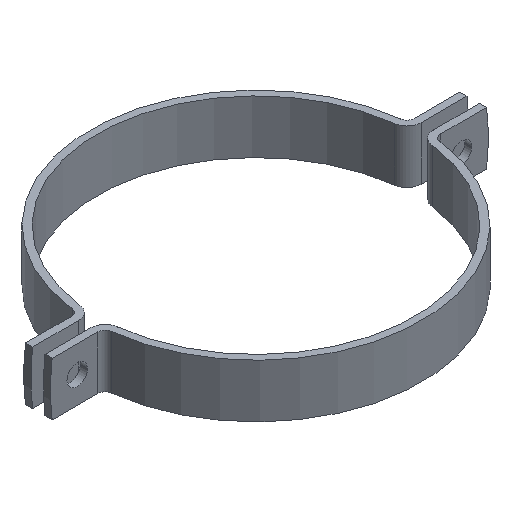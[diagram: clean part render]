
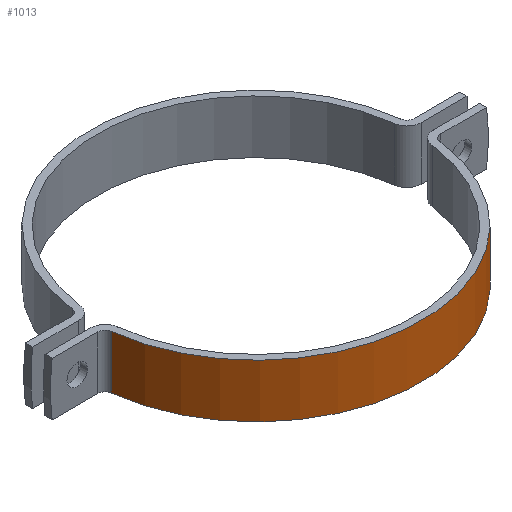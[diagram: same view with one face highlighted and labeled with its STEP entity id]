
A CAD part, isometric view. The second image highlights one B-rep face of the part: STEP entity #1013.
In plain terms, the highlighted cylindrical face has radius 186 mm (diameter 372 mm), a partial arc.
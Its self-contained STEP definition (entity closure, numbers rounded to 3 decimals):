
#28 = ORIENTED_EDGE ( 'NONE', *, *, #1198, .T. ) ;
#38 = CARTESIAN_POINT ( 'NONE',  ( -184.688, -22.052, 0. ) ) ;
#102 = CARTESIAN_POINT ( 'NONE',  ( -184.688, -22.052, -60. ) ) ;
#114 = DIRECTION ( 'NONE',  ( 0., 0., 1. ) ) ;
#145 = VECTOR ( 'NONE', #576, 1000. ) ;
#184 = CARTESIAN_POINT ( 'NONE',  ( 184.688, -22.052, -60. ) ) ;
#202 = CARTESIAN_POINT ( 'NONE',  ( -184.688, -22.052, -60. ) ) ;
#296 = ORIENTED_EDGE ( 'NONE', *, *, #754, .F. ) ;
#403 = LINE ( 'NONE', #102, #1176 ) ;
#411 = ORIENTED_EDGE ( 'NONE', *, *, #1085, .T. ) ;
#456 = AXIS2_PLACEMENT_3D ( 'NONE', #602, #718, #822 ) ;
#465 = CYLINDRICAL_SURFACE ( 'NONE', #1109, 186. ) ;
#484 = DIRECTION ( 'NONE',  ( 0., 0., 1. ) ) ;
#540 = VERTEX_POINT ( 'NONE', #38 ) ;
#576 = DIRECTION ( 'NONE',  ( 0., 0., 1. ) ) ;
#580 = ORIENTED_EDGE ( 'NONE', *, *, #1142, .F. ) ;
#602 = CARTESIAN_POINT ( 'NONE',  ( 0., 0., 0. ) ) ;
#617 = DIRECTION ( 'NONE',  ( 1., 0., 0. ) ) ;
#655 = FACE_OUTER_BOUND ( 'NONE', #1230, .T. ) ;
#718 = DIRECTION ( 'NONE',  ( 0., 0., 1. ) ) ;
#752 = DIRECTION ( 'NONE',  ( 0., 0., 1. ) ) ;
#754 = EDGE_CURVE ( 'NONE', #540, #837, #1070, .T. ) ;
#769 = LINE ( 'NONE', #184, #145 ) ;
#789 = CARTESIAN_POINT ( 'NONE',  ( 184.688, -22.052, -60. ) ) ;
#822 = DIRECTION ( 'NONE',  ( 1., 0., 0. ) ) ;
#837 = VERTEX_POINT ( 'NONE', #1190 ) ;
#850 = CARTESIAN_POINT ( 'NONE',  ( 0., 0., -60. ) ) ;
#940 = DIRECTION ( 'NONE',  ( 1., 0., 0. ) ) ;
#961 = CIRCLE ( 'NONE', #1194, 186. ) ;
#972 = CARTESIAN_POINT ( 'NONE',  ( 0., 0., -60. ) ) ;
#1013 = ADVANCED_FACE ( 'NONE', ( #655 ), #465, .T. ) ;
#1070 = CIRCLE ( 'NONE', #456, 186. ) ;
#1085 = EDGE_CURVE ( 'NONE', #1217, #837, #769, .T. ) ;
#1109 = AXIS2_PLACEMENT_3D ( 'NONE', #850, #752, #940 ) ;
#1142 = EDGE_CURVE ( 'NONE', #1152, #540, #403, .T. ) ;
#1152 = VERTEX_POINT ( 'NONE', #202 ) ;
#1176 = VECTOR ( 'NONE', #484, 1000. ) ;
#1190 = CARTESIAN_POINT ( 'NONE',  ( 184.688, -22.052, 0. ) ) ;
#1194 = AXIS2_PLACEMENT_3D ( 'NONE', #972, #114, #617 ) ;
#1198 = EDGE_CURVE ( 'NONE', #1152, #1217, #961, .T. ) ;
#1217 = VERTEX_POINT ( 'NONE', #789 ) ;
#1230 = EDGE_LOOP ( 'NONE', ( #296, #580, #28, #411 ) ) ;
